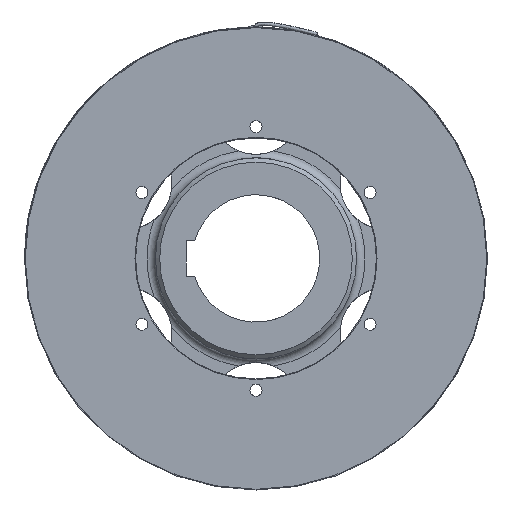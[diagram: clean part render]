
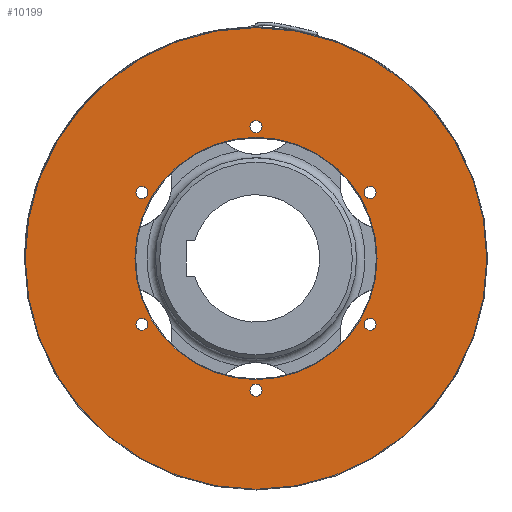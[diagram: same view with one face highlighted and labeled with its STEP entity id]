
A CAD part, left-side view. The second image highlights one B-rep face of the part: STEP entity #10199.
In plain terms, the highlighted planar face has unit normal (-1, 0, 0).
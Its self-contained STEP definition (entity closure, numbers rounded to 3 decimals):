
#243=FACE_BOUND('',#1386,.T.);
#244=FACE_BOUND('',#1387,.T.);
#245=FACE_BOUND('',#1388,.T.);
#246=FACE_BOUND('',#1389,.T.);
#247=FACE_BOUND('',#1390,.T.);
#248=FACE_BOUND('',#1391,.T.);
#249=FACE_BOUND('',#1392,.T.);
#395=PLANE('',#11444);
#773=FACE_OUTER_BOUND('',#1385,.T.);
#1385=EDGE_LOOP('',(#8149,#8150));
#1386=EDGE_LOOP('',(#8151,#8152));
#1387=EDGE_LOOP('',(#8153,#8154));
#1388=EDGE_LOOP('',(#8155,#8156));
#1389=EDGE_LOOP('',(#8157,#8158));
#1390=EDGE_LOOP('',(#8159,#8160));
#1391=EDGE_LOOP('',(#8161,#8162));
#1392=EDGE_LOOP('',(#8163));
#3064=CIRCLE('',#11317,163.);
#3065=CIRCLE('',#11318,163.);
#3160=CIRCLE('',#11420,85.5);
#3161=CIRCLE('',#11423,4.25);
#3162=CIRCLE('',#11424,4.25);
#3163=CIRCLE('',#11426,4.25);
#3164=CIRCLE('',#11427,4.25);
#3165=CIRCLE('',#11429,4.25);
#3166=CIRCLE('',#11430,4.25);
#3167=CIRCLE('',#11432,4.25);
#3168=CIRCLE('',#11433,4.25);
#3169=CIRCLE('',#11435,4.25);
#3170=CIRCLE('',#11436,4.25);
#3171=CIRCLE('',#11438,4.25);
#3172=CIRCLE('',#11439,4.25);
#4178=VERTEX_POINT('',#17815);
#4179=VERTEX_POINT('',#17816);
#4274=VERTEX_POINT('',#18030);
#4275=VERTEX_POINT('',#18035);
#4276=VERTEX_POINT('',#18036);
#4277=VERTEX_POINT('',#18041);
#4278=VERTEX_POINT('',#18042);
#4279=VERTEX_POINT('',#18047);
#4280=VERTEX_POINT('',#18048);
#4281=VERTEX_POINT('',#18053);
#4282=VERTEX_POINT('',#18054);
#4283=VERTEX_POINT('',#18059);
#4284=VERTEX_POINT('',#18060);
#4285=VERTEX_POINT('',#18065);
#4286=VERTEX_POINT('',#18066);
#5505=EDGE_CURVE('',#4178,#4179,#3064,.T.);
#5506=EDGE_CURVE('',#4179,#4178,#3065,.T.);
#5609=EDGE_CURVE('',#4274,#4274,#3160,.T.);
#5610=EDGE_CURVE('',#4275,#4276,#3161,.T.);
#5611=EDGE_CURVE('',#4276,#4275,#3162,.T.);
#5613=EDGE_CURVE('',#4277,#4278,#3163,.T.);
#5614=EDGE_CURVE('',#4278,#4277,#3164,.T.);
#5616=EDGE_CURVE('',#4279,#4280,#3165,.T.);
#5617=EDGE_CURVE('',#4280,#4279,#3166,.T.);
#5619=EDGE_CURVE('',#4281,#4282,#3167,.T.);
#5620=EDGE_CURVE('',#4282,#4281,#3168,.T.);
#5622=EDGE_CURVE('',#4283,#4284,#3169,.T.);
#5623=EDGE_CURVE('',#4284,#4283,#3170,.T.);
#5625=EDGE_CURVE('',#4285,#4286,#3171,.T.);
#5626=EDGE_CURVE('',#4286,#4285,#3172,.T.);
#8149=ORIENTED_EDGE('',*,*,#5505,.T.);
#8150=ORIENTED_EDGE('',*,*,#5506,.T.);
#8151=ORIENTED_EDGE('',*,*,#5625,.T.);
#8152=ORIENTED_EDGE('',*,*,#5626,.T.);
#8153=ORIENTED_EDGE('',*,*,#5622,.T.);
#8154=ORIENTED_EDGE('',*,*,#5623,.T.);
#8155=ORIENTED_EDGE('',*,*,#5619,.T.);
#8156=ORIENTED_EDGE('',*,*,#5620,.T.);
#8157=ORIENTED_EDGE('',*,*,#5616,.T.);
#8158=ORIENTED_EDGE('',*,*,#5617,.T.);
#8159=ORIENTED_EDGE('',*,*,#5613,.T.);
#8160=ORIENTED_EDGE('',*,*,#5614,.T.);
#8161=ORIENTED_EDGE('',*,*,#5610,.T.);
#8162=ORIENTED_EDGE('',*,*,#5611,.T.);
#8163=ORIENTED_EDGE('',*,*,#5609,.F.);
#10199=ADVANCED_FACE('',(#773,#243,#244,#245,#246,#247,#248,#249),#395,
 .T.);
#11317=AXIS2_PLACEMENT_3D('',#17817,#14080,#14081);
#11318=AXIS2_PLACEMENT_3D('',#17818,#14082,#14083);
#11420=AXIS2_PLACEMENT_3D('',#18032,#14293,#14294);
#11423=AXIS2_PLACEMENT_3D('',#18037,#14299,#14300);
#11424=AXIS2_PLACEMENT_3D('',#18038,#14301,#14302);
#11426=AXIS2_PLACEMENT_3D('',#18043,#14306,#14307);
#11427=AXIS2_PLACEMENT_3D('',#18044,#14308,#14309);
#11429=AXIS2_PLACEMENT_3D('',#18049,#14313,#14314);
#11430=AXIS2_PLACEMENT_3D('',#18050,#14315,#14316);
#11432=AXIS2_PLACEMENT_3D('',#18055,#14320,#14321);
#11433=AXIS2_PLACEMENT_3D('',#18056,#14322,#14323);
#11435=AXIS2_PLACEMENT_3D('',#18061,#14327,#14328);
#11436=AXIS2_PLACEMENT_3D('',#18062,#14329,#14330);
#11438=AXIS2_PLACEMENT_3D('',#18067,#14334,#14335);
#11439=AXIS2_PLACEMENT_3D('',#18068,#14336,#14337);
#11444=AXIS2_PLACEMENT_3D('',#18076,#14347,#14348);
#14080=DIRECTION('center_axis',(-1.,0.,0.));
#14081=DIRECTION('ref_axis',(0.,1.,0.));
#14082=DIRECTION('center_axis',(-1.,0.,0.));
#14083=DIRECTION('ref_axis',(0.,1.,0.));
#14293=DIRECTION('center_axis',(-1.,0.,0.));
#14294=DIRECTION('ref_axis',(0.,-1.,0.));
#14299=DIRECTION('center_axis',(1.,0.,0.));
#14300=DIRECTION('ref_axis',(0.,0.,
1.));
#14301=DIRECTION('center_axis',(1.,0.,0.));
#14302=DIRECTION('ref_axis',(0.,0.,
1.));
#14306=DIRECTION('center_axis',(1.,0.,0.));
#14307=DIRECTION('ref_axis',(0.,0.,
1.));
#14308=DIRECTION('center_axis',(1.,0.,0.));
#14309=DIRECTION('ref_axis',(0.,0.,
1.));
#14313=DIRECTION('center_axis',(1.,0.,0.));
#14314=DIRECTION('ref_axis',(0.,0.,
1.));
#14315=DIRECTION('center_axis',(1.,0.,0.));
#14316=DIRECTION('ref_axis',(0.,0.,
1.));
#14320=DIRECTION('center_axis',(1.,0.,0.));
#14321=DIRECTION('ref_axis',(0.,0.,
1.));
#14322=DIRECTION('center_axis',(1.,0.,0.));
#14323=DIRECTION('ref_axis',(0.,0.,
1.));
#14327=DIRECTION('center_axis',(1.,0.,0.));
#14328=DIRECTION('ref_axis',(0.,0.,
1.));
#14329=DIRECTION('center_axis',(1.,0.,0.));
#14330=DIRECTION('ref_axis',(0.,0.,
1.));
#14334=DIRECTION('center_axis',(1.,0.,0.));
#14335=DIRECTION('ref_axis',(0.,0.,
1.));
#14336=DIRECTION('center_axis',(1.,0.,0.));
#14337=DIRECTION('ref_axis',(0.,0.,
1.));
#14347=DIRECTION('center_axis',(-1.,0.,0.));
#14348=DIRECTION('ref_axis',(0.,0.,
1.));
#17815=CARTESIAN_POINT('',(-33.8,163.,0.));
#17816=CARTESIAN_POINT('',(-33.8,-163.,0.));
#17817=CARTESIAN_POINT('Origin',(-33.8,0.,0.));
#17818=CARTESIAN_POINT('Origin',(-33.8,0.,0.));
#18030=CARTESIAN_POINT('',(-33.8,85.5,0.));
#18032=CARTESIAN_POINT('Origin',(-33.8,0.,0.));
#18035=CARTESIAN_POINT('',(-33.8,-80.54,50.75));
#18036=CARTESIAN_POINT('',(-33.8,-80.54,42.25));
#18037=CARTESIAN_POINT('Origin',(-33.8,-80.54,46.5));
#18038=CARTESIAN_POINT('Origin',(-33.8,-80.54,46.5));
#18041=CARTESIAN_POINT('',(-33.8,0.,-88.75));
#18042=CARTESIAN_POINT('',(-33.8,0.,-97.25));
#18043=CARTESIAN_POINT('Origin',(-33.8,0.,-93.));
#18044=CARTESIAN_POINT('Origin',(-33.8,0.,-93.));
#18047=CARTESIAN_POINT('',(-33.8,80.54,50.75));
#18048=CARTESIAN_POINT('',(-33.8,80.54,42.25));
#18049=CARTESIAN_POINT('Origin',(-33.8,80.54,46.5));
#18050=CARTESIAN_POINT('Origin',(-33.8,80.54,46.5));
#18053=CARTESIAN_POINT('',(-33.8,0.,97.25));
#18054=CARTESIAN_POINT('',(-33.8,0.,88.75));
#18055=CARTESIAN_POINT('Origin',(-33.8,0.,93.));
#18056=CARTESIAN_POINT('Origin',(-33.8,0.,93.));
#18059=CARTESIAN_POINT('',(-33.8,80.54,-42.25));
#18060=CARTESIAN_POINT('',(-33.8,80.54,-50.75));
#18061=CARTESIAN_POINT('Origin',(-33.8,80.54,-46.5));
#18062=CARTESIAN_POINT('Origin',(-33.8,80.54,-46.5));
#18065=CARTESIAN_POINT('',(-33.8,-80.54,-42.25));
#18066=CARTESIAN_POINT('',(-33.8,-80.54,-50.75));
#18067=CARTESIAN_POINT('Origin',(-33.8,-80.54,-46.5));
#18068=CARTESIAN_POINT('Origin',(-33.8,-80.54,-46.5));
#18076=CARTESIAN_POINT('Origin',(-33.8,124.,0.));
